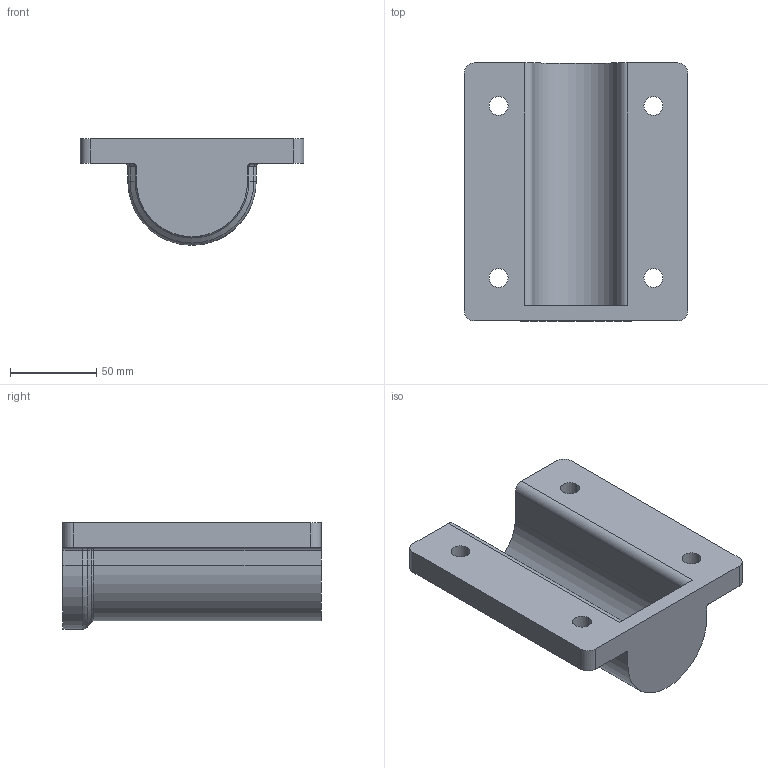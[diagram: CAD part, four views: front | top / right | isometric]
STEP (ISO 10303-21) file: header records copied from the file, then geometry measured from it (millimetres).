
FILE_DESCRIPTION (( 'STEP AP203' ), '1' );
FILE_NAME ('KIE_018.A16.STEP', '2025-01-22T20:19:53', ( '' ), ( '' ), 'SwSTEP 2.0', 'SolidWorks 2023', '' );
FILE_SCHEMA (( 'CONFIG_CONTROL_DESIGN' ));
Length unit declared in the file: millimetre
Products named in the file (1): KIE_018.A16
Bounding box: 130 x 150 x 62 mm (x, y, z)
Volume: 313784.8 mm3; surface area: 72480.7 mm2
Topology: 1 solids, 1 shells, 65 faces, 285 edges, 235 vertices
Faces by surface type: cylinder 29, plane 29, torus 4, sphere 2, cone 1
Entity records: 3530 total; most frequent: CARTESIAN_POINT 1248, ORIENTED_EDGE 570, DIRECTION 326, EDGE_CURVE 285, VERTEX_POINT 235, B_SPLINE_CURVE_WITH_KNOTS 153, AXIS2_PLACEMENT_3D 128, EDGE_LOOP 86
